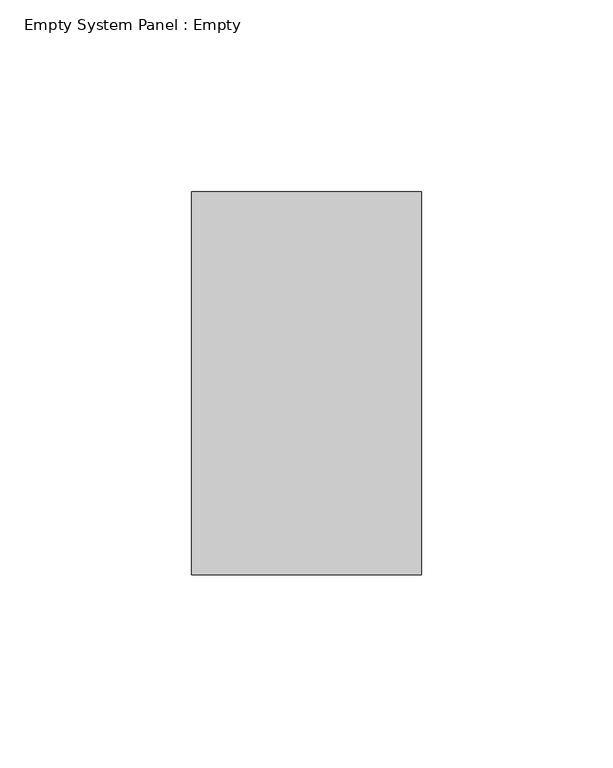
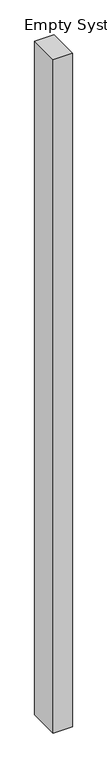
"""IFC4 building model written with IfcOpenShell, lengths in millimetres: plate geometry, Empty System Panel : Empty."""

from ifc_helpers import new_model, si_unit, origin, origin_with_axes, place, context, project, spatial, polyline, outline, extrude, source, transform, mapped, element, save


def empty_system_panel_empty_d01f5993(model_context):
    return source(origin(), model_context, "Body", "SweptSolid", [
        extrude(outline(polyline([(30.0000002, -150.0), (-30.0000002, -150.0), (-30.0000002, -50.0), (30.0000002, -50.0), (30.0000002, -150.0)])), origin_with_axes(), (0.0, 0.0, 1.0), 2225.0),
    ])


if __name__ == "__main__":
    model = new_model("IFC4")
    model_context = context("Model", 3, world=origin())
    ifc_project = project(units=[si_unit("LENGTHUNIT", "METRE", prefix="MILLI")], contexts=[model_context])
    site = spatial("IfcSite", under=ifc_project)
    building = spatial("IfcBuilding", under=site)
    placement = place(None, origin())
    empty_system_panel_empty_shape = empty_system_panel_empty_d01f5993(model_context)
    element("IfcPlate", 1, ObjectType="Empty System Panel : Empty", at=placement, inside=building, context=model_context, shape_type="MappedRepresentation", body=[
        mapped(empty_system_panel_empty_shape, transform((0.0, 0.0, 0.0), x_axis=(1.0, 0.0, 0.0), y_axis=(0.0, 1.0, 0.0), z_axis=(0.0, 0.0, 1.0))),
    ])
    save(model, "model.ifc")
